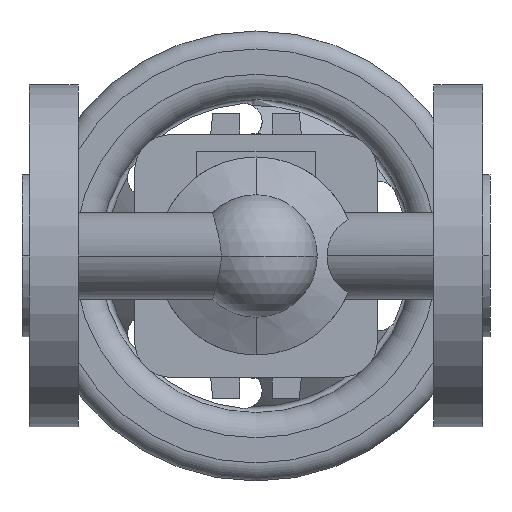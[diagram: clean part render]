
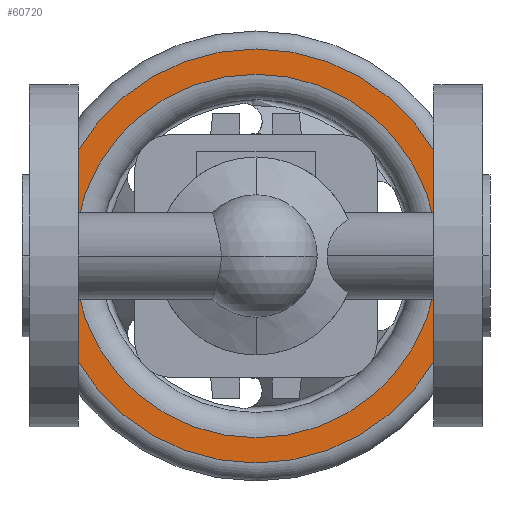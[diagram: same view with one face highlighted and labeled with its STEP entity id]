
A CAD part, front view. The second image highlights one B-rep face of the part: STEP entity #60720.
In plain terms, the highlighted planar face has unit normal (0, -1, 0).
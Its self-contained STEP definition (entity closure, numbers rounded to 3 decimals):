
#60070=CARTESIAN_POINT('',(122.5,202.3,0.));
#60080=VERTEX_POINT('',#60070);
#60170=CARTESIAN_POINT('',(7.5,202.3,0.));
#60180=VERTEX_POINT('',#60170);
#60210=CARTESIAN_POINT('',(65.,202.3,0.));
#60220=DIRECTION('',(0.,1.,0.));
#60230=DIRECTION('',(-1.,0.,0.));
#60240=AXIS2_PLACEMENT_3D('',#60210,#60220,#60230);
#60250=CIRCLE('',#60240,57.5);
#60260=CARTESIAN_POINT('',(65.,202.3,-57.5));
#60270=VERTEX_POINT('',#60260);
#60280=EDGE_CURVE('',#60270,#60180,#60250,.T.);
#60300=EDGE_CURVE('',#60080,#60270,#60250,.T.);
#60420=CARTESIAN_POINT('',(11.,202.3,0.));
#60430=DIRECTION('',(0.,-1.,0.));
#60440=DIRECTION('',(1.,0.,0.));
#60450=AXIS2_PLACEMENT_3D('',#60420,#60430,#60440);
#60460=PLANE('',#60450);
#60470=ORIENTED_EDGE('',*,*,#60280,.F.);
#60480=EDGE_CURVE('',#60180,#60080,#60250,.T.);
#60490=ORIENTED_EDGE('',*,*,#60480,.F.);
#60500=ORIENTED_EDGE('',*,*,#60300,.F.);
#60510=EDGE_LOOP('',(#60500,#60490,#60470));
#60520=FACE_OUTER_BOUND('',#60510,.T.);
#60530=CARTESIAN_POINT('',(65.,202.3,0.));
#60540=DIRECTION('',(0.,1.,0.));
#60550=DIRECTION('',(-1.,0.,0.));
#60560=AXIS2_PLACEMENT_3D('',#60530,#60540,#60550);
#60570=CIRCLE('',#60560,50.5);
#60580=CARTESIAN_POINT('',(14.5,202.3,0.));
#60590=VERTEX_POINT('',#60580);
#60600=CARTESIAN_POINT('',(115.5,202.3,0.));
#60610=VERTEX_POINT('',#60600);
#60620=EDGE_CURVE('',#60590,#60610,#60570,.T.);
#60630=ORIENTED_EDGE('',*,*,#60620,.T.);
#60640=CARTESIAN_POINT('',(65.,202.3,-50.5));
#60650=VERTEX_POINT('',#60640);
#60660=EDGE_CURVE('',#60650,#60590,#60570,.T.);
#60670=ORIENTED_EDGE('',*,*,#60660,.T.);
#60680=EDGE_CURVE('',#60610,#60650,#60570,.T.);
#60690=ORIENTED_EDGE('',*,*,#60680,.T.);
#60700=EDGE_LOOP('',(#60690,#60670,#60630));
#60710=FACE_BOUND('',#60700,.T.);
#60720=ADVANCED_FACE('',(#60520,#60710),#60460,.T.);
